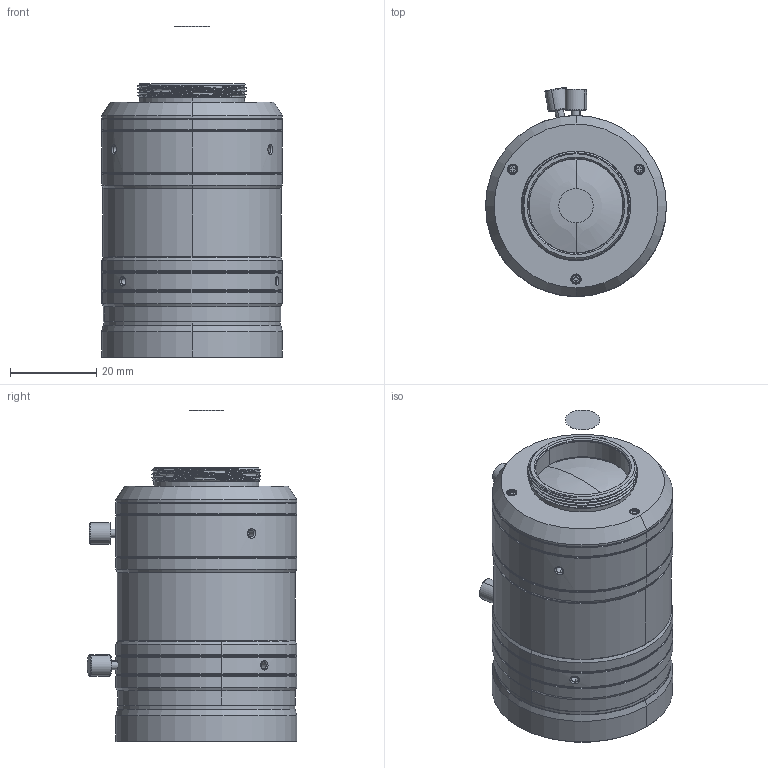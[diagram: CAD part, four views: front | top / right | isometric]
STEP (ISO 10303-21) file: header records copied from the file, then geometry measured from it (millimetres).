
FILE_DESCRIPTION((''),'2;1');
FILE_NAME('LS-KF3524M-25MP','2020-12-31T10:59:48',('LumaSpec Vision'),('LumaSpec Vision'),'CREO PARAMETRIC BY PTC INC, 2017260','CREO PARAMETRIC BY PTC INC, 2017260','');
FILE_SCHEMA(('CONFIG_CONTROL_DESIGN'));
Length unit declared in the file: millimetre
Products named in the file (25): FK20S04A-101_38; FK20S04-G1_7; FK20S04-301_13; FK20S04A-101_ASM_11_ASM; FK20S04A-103_65_1_2; FK20S04-XM_3; FK20S04A-102_46; FK20S04-121_ASM_6; FK20S04-G11_9; FK20S04-303_13; FK20S04-122_ASM_5_ASM; PH7102A-502_6_1_2_3; FK20S04-02_ASM_5_ASM; FK20S04A-104_34; FK20S04A-105_38; FK20S04A-107_17; PH7100A-509_7_1_2_3; PH7100A-504_4_1_2_3_4; PHX-16-502_6_1_2_3_4; FK20S04-106_10; FK20S04-108_4; PV16-505_4_1_2_3_4; FK20S04-109_4_1_2; FK20S04A-ZP_ASM_41_ASM; LS-KF3524M-25MP_ASM
Assembly tree (31 placements, depth 5):
  LS-KF3524M-25MP_ASM
    FK20S04A-ZP_ASM_41_ASM
      FK20S04A-101_ASM_11_ASM
        FK20S04A-101_38
        FK20S04-G1_7
        FK20S04-301_13
      FK20S04A-103_65_1_2
      FK20S04-XM_3
      FK20S04A-102_46
      FK20S04-02_ASM_5_ASM
        FK20S04-121_ASM_6
        FK20S04-122_ASM_5_ASM
          FK20S04-G11_9
          FK20S04-303_13
        PH7102A-502_6_1_2_3  x2
      FK20S04A-104_34
      FK20S04A-105_38
      FK20S04A-107_17
      PH7100A-509_7_1_2_3  x4
      PH7100A-504_4_1_2_3_4
      PHX-16-502_6_1_2_3_4  x3
      FK20S04-106_10
      FK20S04-108_4
      PV16-505_4_1_2_3_4  x2
      FK20S04-109_4_1_2
Bounding box: 42 x 48.63 x 76.86 mm (x, y, z)
Volume: 36940.9 mm3; surface area: 43843.3 mm2
Topology: 26 solids, 26 shells, 816 faces, 1972 edges, 1233 vertices
Faces by surface type: cylinder 286, cone 237, plane 186, bspline 88, torus 11, sphere 8
Entity records: 28564 total; most frequent: CARTESIAN_POINT 11847, DIRECTION 3431, ORIENTED_EDGE 3368, EDGE_CURVE 1684, AXIS2_PLACEMENT_3D 1391, VERTEX_POINT 1065, EDGE_LOOP 799, CIRCLE 697
